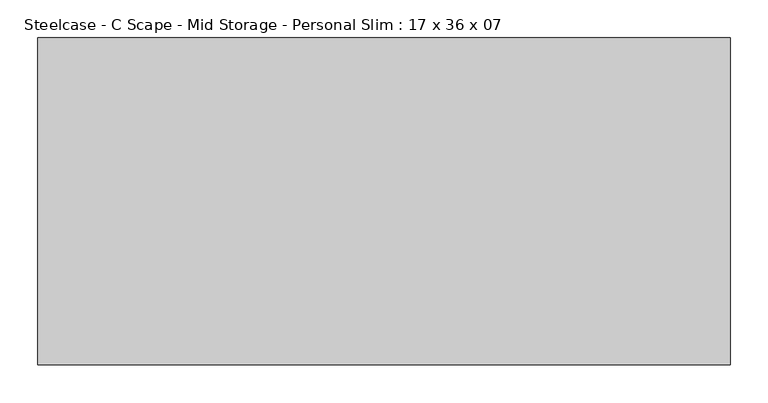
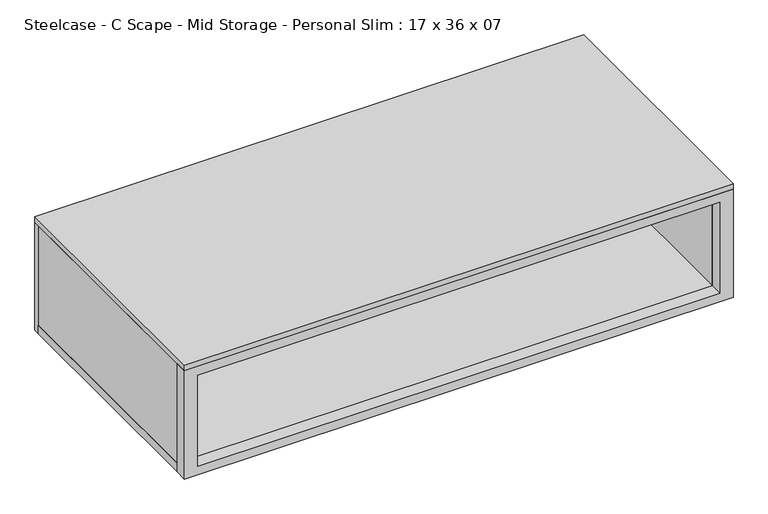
"""IFC4 building model written with IfcOpenShell, lengths in millimetres: furniture geometry, Steelcase - C Scape - Mid Storage - Personal Slim : 17 x 36 x 07."""

from ifc_helpers import new_model, si_unit, frame, origin, place, context, project, spatial, polyline, outline, extrude, source, transform, mapped, element, save


def steelcase_c_scape_mid_storage_personal_slim_17_x_36_x_07_3348df98(model_context):
    return source(origin(), model_context, "Body", "SweptSolid", [
        extrude(outline(polyline([(1028.7, 914.4), (1028.7, 0.0), (838.2, 0.0), (838.2, 914.4), (1028.7, 914.4)]), holes=[polyline([(853.4399855, 21.9711633), (1013.46, 21.9711633), (1013.46, 892.302), (853.4399855, 892.302), (853.4399855, 21.9711633)])]), frame((0.0, -215.9, 0.0), z_axis=(0.0, 1.0, 0.0), x_axis=(0.0, 0.0, 1.0)), (0.0, 0.0, 1.0), 21.4627892),
        extrude(outline(polyline([(914.4, 206.3755809), (914.4, -194.4372108), (0.0, -194.4372108), (0.0, 206.3755809), (914.4, 206.3755809)])), frame((0.0, 0.0, 838.2), z_axis=(0.0, 0.0, 1.0), x_axis=(1.0, 0.0, 0.0)), (0.0, 0.0, 1.0), 15.2399855),
        extrude(outline(polyline([(914.4, 215.9), (914.4, -215.9), (0.0, -215.9), (0.0, 215.9), (914.4, 215.9)])), frame((0.0, 0.0, 1028.7), z_axis=(0.0, 0.0, 1.0), x_axis=(1.0, 0.0, 0.0)), (0.0, 0.0, 1.0), 10.1599903),
        extrude(outline(polyline([(914.4, 215.9), (914.4, 206.3755809), (0.0, 206.3755809), (0.0, 215.9), (914.4, 215.9)])), frame((0.0, 0.0, 838.2), z_axis=(0.0, 0.0, 1.0), x_axis=(1.0, 0.0, 0.0)), (0.0, 0.0, 1.0), 190.5),
        extrude(outline(polyline([(21.9711633, 206.3755809), (21.9711633, -194.4372108), (0.0, -194.4372108), (0.0, 206.3755809), (21.9711633, 206.3755809)])), frame((0.0, 0.0, 853.4399855), z_axis=(0.0, 0.0, 1.0), x_axis=(1.0, 0.0, 0.0)), (0.0, 0.0, 1.0), 175.2600145),
        extrude(outline(polyline([(892.302, 206.3755809), (914.4, 206.3755809), (914.4, -194.4372108), (892.302, -194.4372108), (892.302, 206.3755809)])), frame((0.0, 0.0, 853.4399855), z_axis=(0.0, 0.0, 1.0), x_axis=(1.0, 0.0, 0.0)), (0.0, 0.0, 1.0), 175.2600145),
    ])


if __name__ == "__main__":
    model = new_model("IFC4")
    model_context = context("Model", 3, world=origin())
    ifc_project = project(units=[si_unit("LENGTHUNIT", "METRE", prefix="MILLI")], contexts=[model_context])
    site = spatial("IfcSite", under=ifc_project)
    building = spatial("IfcBuilding", under=site)
    placement = place(None, origin())
    steelcase_c_scape_mid_storage_personal_slim_17_x_36_x_07_shape = steelcase_c_scape_mid_storage_personal_slim_17_x_36_x_07_3348df98(model_context)
    element("IfcFurniture", 1, ObjectType="Steelcase - C Scape - Mid Storage - Personal Slim : 17 x 36 x 07", at=placement, inside=building, context=model_context, shape_type="MappedRepresentation", body=[
        mapped(steelcase_c_scape_mid_storage_personal_slim_17_x_36_x_07_shape, transform((0.0, 0.0, 0.0), x_axis=(1.0, 0.0, 0.0), y_axis=(0.0, 1.0, 0.0), z_axis=(0.0, 0.0, 1.0))),
    ])
    save(model, "model.ifc")
